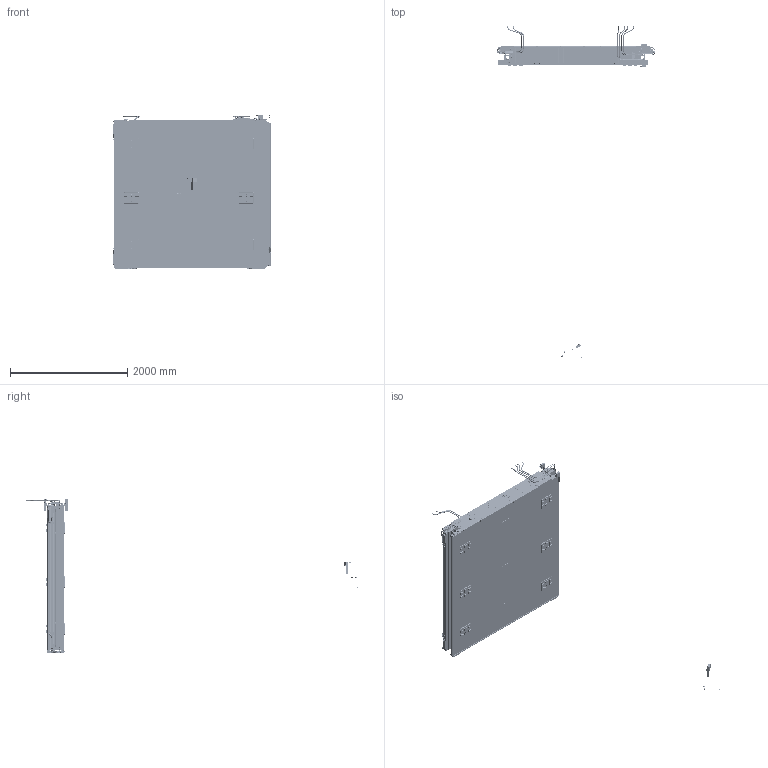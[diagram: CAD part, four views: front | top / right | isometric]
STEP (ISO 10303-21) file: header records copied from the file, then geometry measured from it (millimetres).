
FILE_DESCRIPTION(/* description */ (''),/* implementation_level */ '2;1');
FILE_NAME(/* name */ 'mb2_2_2_4_R.stp',/* time_stamp */ '2017-05-19T11:16:29+02:00',/* author */ (''),/* organization */ (''),/* preprocessor_version */ 'ST-DEVELOPER v16',/* originating_system */ 'SIEMENS PLM Software NX 10.0',/* authorisation */ '');
FILE_SCHEMA (('AUTOMOTIVE_DESIGN { 1 0 10303 214 3 1 1 1 }'));
Products named in the file (219): busbar_pin; ass_4_variables; piastra_0011_spess; piastra_0011; rivetto_4; spina_5x26; elicoil; rivetto_svas_m10; connett_fe_littl; power_supply_model; tappo1_4; connett_test_p; mb45_phi_lam_vars; mb3c_phi_lam_vars; mb3_phi_lam_vars; mb2c_th_lam_vars; mb2c_phi_lam_vars; mb2_th_lam_vars; mb2_phi_lam_vars; mb3c_th_lam_vars; mb45c_phi_lam_vars; mb3_th_lam_vars; mb48_phi_lam_vars; mb1_phi_lam_vars; mb1_th_lam_vars; mb49_phi_lam_vars; mb1c_phi_lam_vars; mb1c_th_lam_vars; cover_new2; axis; tappo1_8; colon_front_000308; block_sh12_000301; txt_2_lung; cms_mb_05_010; fork; w2s_hc_skin; w2s_hc_core; cms_mb_02_030; cms_mb_02_013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
Assembly tree (512 placements, depth 9):
  030930_mb2_2_2_4_th_phi_R_carters
    mb2_2_2_4_ass
      mb2_2_2_4_ch
        mb2_phi_superlay  x2
          mb2_q1_ass_lamiere
            mb2_q1_b1
            mb2_q1_b1_up
            cms_mb_02_004  x4
              mb2_ass_4_variables
                ass_4_variables
          mb2_q1_ass_lateral
            as_angle  x2
              block_sh12_000301
              colon_front_000308
            cms_mb_02_014
          vite_m4
          mb2_q1_cover_hv_ass
            cms_mb_02_027
            cms_mb_02_022
              tappo1_8  x2
              axis  x35
            as_hv_conn_cover  x2
              cover_new2
          vars
            mb1c_th_vars
              mb1c_th_lam_vars
            mb1c_phi_vars
              mb1c_phi_lam_vars
            mb49_phi_vars
              mb49_phi_lam_vars
            mb1_th_vars
              mb1_th_lam_vars
            mb1_phi_vars
              mb1_phi_lam_vars
            mb48_phi_vars
              mb48_phi_lam_vars
            mb3_th_vars
              mb3_th_lam_vars
            mb45c_phi_vars
              mb45c_phi_lam_vars
            mb3c_th_vars
              mb3c_th_lam_vars
            mb2_phi_vars
              mb2_phi_lam_vars
            mb2_th_vars
              mb2_th_lam_vars
            mb2c_phi_vars
              mb2c_phi_lam_vars
            mb2c_th_vars
              mb2c_th_lam_vars
            mb3_phi_vars
              mb3_phi_lam_vars
            mb3c_phi_vars
              mb3c_phi_lam_vars
            mb45_phi_vars
              mb45_phi_lam_vars
          2550_ass
            2550_cms_mb_02_043
              axis  x39
              connett_test_p  x4
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Bounding box: 2695.4 x 5666.44 x 2646.2 mm (x, y, z)
Volume: 815297039 mm3; surface area: 153480967.2 mm2
Topology: 324 solids, 772 shells, 18398 faces, 57594 edges, 47902 vertices
Faces by surface type: plane 11344, cylinder 5124, cone 1398, torus 330, bspline 146, sphere 56
Full cylindrical faces by diameter (mm): 1 x219, 1.675 x12, 2.459 x3, 2.594 x54, 3 x78, 3.2 x12, 3.25 x6, 3.3 x36, 3.432 x475, 3.5 x57, 3.778 x7, 4 x39, 4.5 x1, 4.8 x32, 5 x91, 5.188 x64, 5.5 x298, 6 x46, 6.4 x23, 6.5 x19, 7 x3, 7.188 x4, 7.5 x72, 8 x71, 8.6 x6, 8.782 x28, 8.8 x30, 8.933 x24, 8.985 x24, 9.391 x48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
Entity records: 383141 total; most frequent: CARTESIAN_POINT 111697, ORIENTED_EDGE 47251, DIRECTION 43615, EDGE_CURVE 24224, AXIS2_PLACEMENT_3D 16048, VERTEX_POINT 15252, EDGE_LOOP 13381, B_SPLINE_CURVE_WITH_KNOTS 12947
